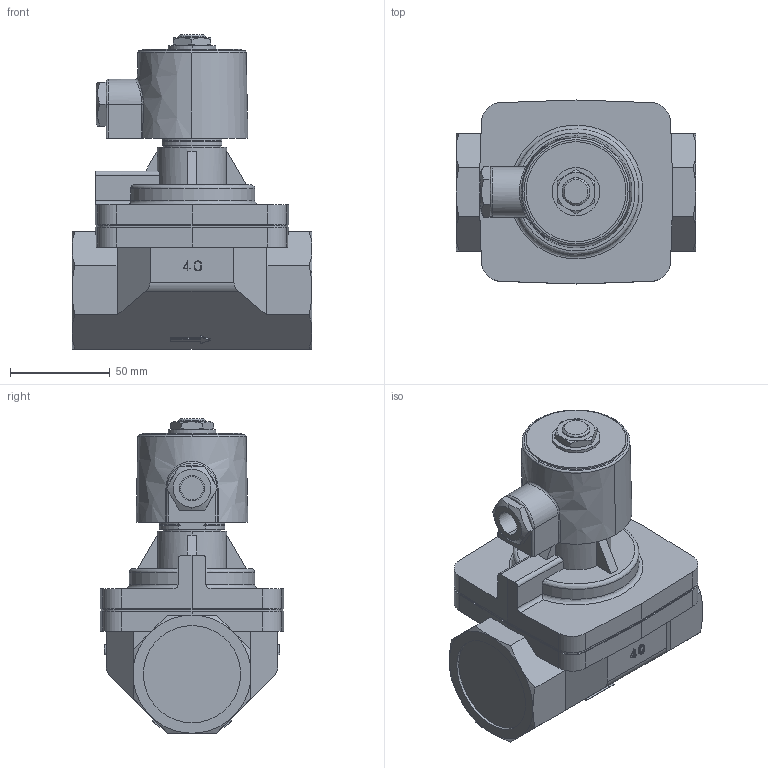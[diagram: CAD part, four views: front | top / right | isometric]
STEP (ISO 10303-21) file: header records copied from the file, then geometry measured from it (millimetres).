
FILE_DESCRIPTION( (''), '2;1');
FILE_NAME ('PC1056.13084.DP-200(40A)_22006.stp','2024-07-18T14:35:15',(''),(''),'spGate 19.8.4 (****-****-****-****)','','');
FILE_SCHEMA (('AUTOMOTIVE_DESIGN'));
Length unit declared in the file: millimetre
Products named in the file (5): Assembly; DP200(40A)本体; DP-200(32_50A）パイプP; コイル六角ナット座金; ACコイル10A
Assembly tree (4 placements, depth 2):
  Assembly
    DP200(40A)本体
    DP-200(32_50A）パイプP
    コイル六角ナット座金
    ACコイル10A
Bounding box: 120 x 92 x 157.2 mm (x, y, z)
Volume: 711246.2 mm3; surface area: 85848.1 mm2
Topology: 4 solids, 4 shells, 395 faces, 936 edges, 580 vertices
Faces by surface type: plane 181, cylinder 112, bspline 102
Entity records: 21387 total; most frequent: CARTESIAN_POINT 5265, ORIENTED_EDGE 1872, DIRECTION 1545, COLOUR_RGB 1335, PRESENTATION_STYLE_ASSIGNMENT 1335, STYLED_ITEM 1335, EDGE_CURVE 936, DRAUGHTING_PRE_DEFINED_CURVE_FONT 936
